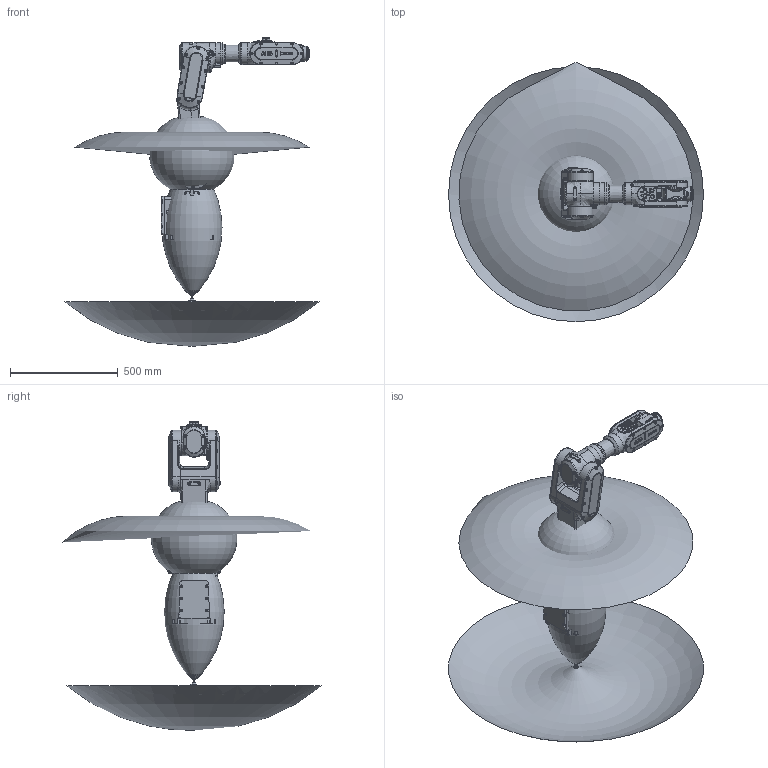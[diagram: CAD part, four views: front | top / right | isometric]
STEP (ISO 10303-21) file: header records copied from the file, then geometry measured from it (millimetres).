
FILE_DESCRIPTION (( 'STEP AP203' ), '1' );
FILE_NAME ('IRB1200GEN2_5kg-910_BTM_OC_00_ASM.STEP', '2025-06-16T02:12:19', ( '' ), ( '' ), 'SwSTEP 2.0', 'SolidWorks 2022', '' );
FILE_SCHEMA (( 'CONFIG_CONTROL_DESIGN' ));
Length unit declared in the file: millimetre
Products named in the file (9): IRB1200GEN2_5kg-910_BTM_OC_00_Link02L_CAD; IRB1200GEN2_5kg-910_BTM_OC_00_Link06L_CAD; IRB1200GEN2_5kg-910_BTM_OC_00_Link03L_CAD; IRB1200GEN2_5kg-910_BTM_OC_00_Link01_CAD; IRB1200GEN2_5kg-910_BTM_OC_00_ASM; IRB1200GEN2_5kg-910_BTM_OC_00_Working-space; IRB1200GEN2_5kg-910_BTM_OC_00_Base_CAD; IRB1200GEN2_5kg-910_BTM_OC_00_Link05L_CAD; IRB1200GEN2_5kg-910_BTM_OC_00_Link04L_CAD
Assembly tree (8 placements, depth 2):
  IRB1200GEN2_5kg-910_BTM_OC_00_ASM
    IRB1200GEN2_5kg-910_BTM_OC_00_Base_CAD
    IRB1200GEN2_5kg-910_BTM_OC_00_Link01_CAD
    IRB1200GEN2_5kg-910_BTM_OC_00_Link02L_CAD
    IRB1200GEN2_5kg-910_BTM_OC_00_Link03L_CAD
    IRB1200GEN2_5kg-910_BTM_OC_00_Link04L_CAD
    IRB1200GEN2_5kg-910_BTM_OC_00_Link05L_CAD
    IRB1200GEN2_5kg-910_BTM_OC_00_Link06L_CAD
    IRB1200GEN2_5kg-910_BTM_OC_00_Working-space
Bounding box: 1185.06 x 1204.6 x 1434.33 mm (x, y, z)
Volume: 332877615.1 mm3; surface area: 5916732.8 mm2
Topology: 8 solids, 9 shells, 4115 faces, 9994 edges, 6201 vertices
Faces by surface type: plane 1527, bspline 1250, cylinder 813, torus 287, cone 204, sphere 34
Full cylindrical faces by diameter (mm): 2.5 x2, 3.3 x16, 4.2 x4, 5 x2, 5.5 x11, 5.68 x4, 6 x2, 6.8 x4, 7 x76, 9 x64, 9.9 x12, 10 x4, 11.3 x1, 13 x2, 13.5 x4, 14 x8, 15 x4, 18 x3, 20 x4, 20.5 x1, 40 x1, 52.5 x1, 65 x4, 69.5 x1, 95 x2, 97 x1, 101.999 x1, 102 x1, 118 x1, 129 x2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
Entity records: 238203 total; most frequent: CARTESIAN_POINT 152940, ORIENTED_EDGE 18788, DIRECTION 14665, EDGE_CURVE 9394, VERTEX_POINT 6003, AXIS2_PLACEMENT_3D 5395, EDGE_LOOP 4851, FACE_OUTER_BOUND 4412
